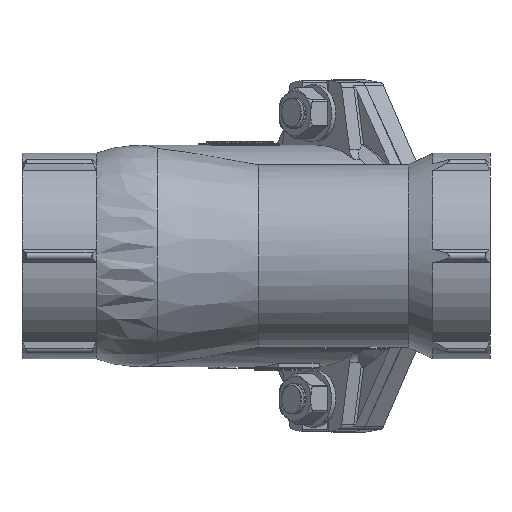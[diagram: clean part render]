
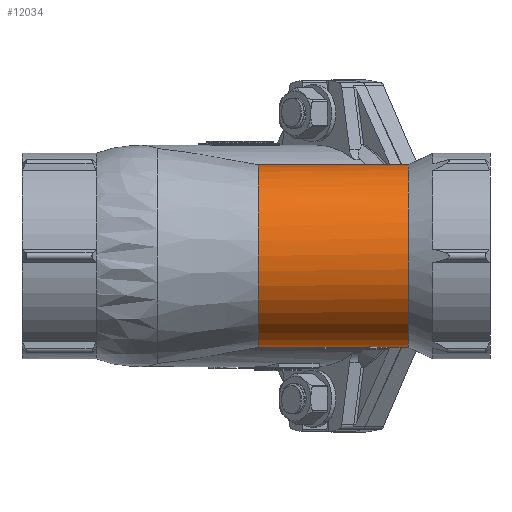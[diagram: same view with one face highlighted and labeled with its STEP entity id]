
A CAD part, front view. The second image highlights one B-rep face of the part: STEP entity #12034.
In plain terms, the highlighted cylindrical face has radius 48 mm (diameter 96 mm), a partial arc.
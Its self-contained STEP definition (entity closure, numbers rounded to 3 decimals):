
#72=ELLIPSE('',#12991,67.882,48.);
#73=ELLIPSE('',#12992,219.672,48.);
#74=ELLIPSE('',#12993,219.672,48.);
#75=ELLIPSE('',#12994,67.882,48.);
#76=ELLIPSE('',#12997,96.,48.);
#77=ELLIPSE('',#12998,96.,48.);
#666=FACE_BOUND('',#4058,.T.);
#810=LINE('',#20160,#1733);
#811=LINE('',#20169,#1734);
#1733=VECTOR('',#14666,1000.);
#1734=VECTOR('',#14675,1000.);
#2613=B_SPLINE_CURVE_WITH_KNOTS('',3,(#20121,#20122,#20123,#20124,#20125,
#20126,#20127,#20128,#20129,#20130,#20131,#20132,#20133,#20134),
 .UNSPECIFIED.,.F.,.F.,(4,2,2,2,2,2,4),(27.184,27.763,
28.948,30.134,31.951,33.768,35.33),
 .UNSPECIFIED.);
#2614=B_SPLINE_CURVE_WITH_KNOTS('',3,(#20142,#20143,#20144,#20145,#20146,
#20147,#20148,#20149,#20150,#20151,#20152,#20153,#20154,#20155),
 .UNSPECIFIED.,.F.,.F.,(4,2,2,2,2,2,4),(-20.014,-18.453,
-16.635,-14.818,-13.633,-12.447,
-11.869),.UNSPECIFIED.);
#2862=CYLINDRICAL_SURFACE('',#12990,48.);
#3326=FACE_OUTER_BOUND('',#4057,.T.);
#4057=EDGE_LOOP('',(#8848,#8849,#8850,#8851,#8852,#8853,#8854,#8855,#8856));
#4058=EDGE_LOOP('',(#8857,#8858,#8859,#8860,#8861,#8862,#8863));
#4821=CIRCLE('',#12910,48.);
#4865=CIRCLE('',#12968,48.);
#4866=CIRCLE('',#12970,48.);
#4882=CIRCLE('',#12995,48.);
#4883=CIRCLE('',#12996,48.);
#4884=CIRCLE('',#12999,48.);
#5279=VERTEX_POINT('',#18498);
#5280=VERTEX_POINT('',#18499);
#5351=VERTEX_POINT('',#19696);
#5352=VERTEX_POINT('',#19698);
#5357=VERTEX_POINT('',#19729);
#5390=VERTEX_POINT('',#20120);
#5391=VERTEX_POINT('',#20135);
#5392=VERTEX_POINT('',#20138);
#5393=VERTEX_POINT('',#20140);
#5394=VERTEX_POINT('',#20156);
#5395=VERTEX_POINT('',#20157);
#5396=VERTEX_POINT('',#20159);
#5397=VERTEX_POINT('',#20161);
#5398=VERTEX_POINT('',#20163);
#5399=VERTEX_POINT('',#20165);
#5400=VERTEX_POINT('',#20167);
#6569=EDGE_CURVE('',#5279,#5280,#4821,.T.);
#6653=EDGE_CURVE('',#5352,#5351,#4865,.T.);
#6659=EDGE_CURVE('',#5351,#5357,#4866,.T.);
#6700=EDGE_CURVE('',#5390,#5279,#2613,.T.);
#6701=EDGE_CURVE('',#5390,#5391,#72,.T.);
#6702=EDGE_CURVE('',#5352,#5391,#73,.T.);
#6703=EDGE_CURVE('',#5357,#5392,#74,.T.);
#6704=EDGE_CURVE('',#5392,#5393,#75,.T.);
#6705=EDGE_CURVE('',#5280,#5393,#2614,.T.);
#6706=EDGE_CURVE('',#5394,#5395,#4882,.T.);
#6707=EDGE_CURVE('',#5396,#5394,#810,.T.);
#6708=EDGE_CURVE('',#5397,#5396,#4883,.T.);
#6709=EDGE_CURVE('',#5398,#5397,#76,.T.);
#6710=EDGE_CURVE('',#5399,#5398,#77,.T.);
#6711=EDGE_CURVE('',#5400,#5399,#4884,.T.);
#6712=EDGE_CURVE('',#5395,#5400,#811,.T.);
#8848=ORIENTED_EDGE('',*,*,#6569,.F.);
#8849=ORIENTED_EDGE('',*,*,#6700,.F.);
#8850=ORIENTED_EDGE('',*,*,#6701,.T.);
#8851=ORIENTED_EDGE('',*,*,#6702,.F.);
#8852=ORIENTED_EDGE('',*,*,#6653,.T.);
#8853=ORIENTED_EDGE('',*,*,#6659,.T.);
#8854=ORIENTED_EDGE('',*,*,#6703,.T.);
#8855=ORIENTED_EDGE('',*,*,#6704,.T.);
#8856=ORIENTED_EDGE('',*,*,#6705,.F.);
#8857=ORIENTED_EDGE('',*,*,#6706,.F.);
#8858=ORIENTED_EDGE('',*,*,#6707,.F.);
#8859=ORIENTED_EDGE('',*,*,#6708,.F.);
#8860=ORIENTED_EDGE('',*,*,#6709,.F.);
#8861=ORIENTED_EDGE('',*,*,#6710,.F.);
#8862=ORIENTED_EDGE('',*,*,#6711,.F.);
#8863=ORIENTED_EDGE('',*,*,#6712,.F.);
#12034=ADVANCED_FACE('',(#3326,#666),#2862,.T.);
#12910=AXIS2_PLACEMENT_3D('',#18500,#14483,#14484);
#12968=AXIS2_PLACEMENT_3D('',#19699,#14610,#14611);
#12970=AXIS2_PLACEMENT_3D('',#19734,#14614,#14615);
#12990=AXIS2_PLACEMENT_3D('',#20119,#14654,#14655);
#12991=AXIS2_PLACEMENT_3D('',#20136,#14656,#14657);
#12992=AXIS2_PLACEMENT_3D('',#20137,#14658,#14659);
#12993=AXIS2_PLACEMENT_3D('',#20139,#14660,#14661);
#12994=AXIS2_PLACEMENT_3D('',#20141,#14662,#14663);
#12995=AXIS2_PLACEMENT_3D('',#20158,#14664,#14665);
#12996=AXIS2_PLACEMENT_3D('',#20162,#14667,#14668);
#12997=AXIS2_PLACEMENT_3D('',#20164,#14669,#14670);
#12998=AXIS2_PLACEMENT_3D('',#20166,#14671,#14672);
#12999=AXIS2_PLACEMENT_3D('',#20168,#14673,#14674);
#14483=DIRECTION('center_axis',(-1.,0.,0.));
#14484=DIRECTION('ref_axis',(0.,0.,1.));
#14610=DIRECTION('center_axis',(-1.,0.,0.));
#14611=DIRECTION('ref_axis',(0.,0.,1.));
#14614=DIRECTION('center_axis',(-1.,0.,0.));
#14615=DIRECTION('ref_axis',(0.,0.,1.));
#14654=DIRECTION('center_axis',(-1.,0.,0.));
#14655=DIRECTION('ref_axis',(0.,-1.,0.));
#14656=DIRECTION('center_axis',(-0.707,-0.707,0.));
#14657=DIRECTION('ref_axis',(0.707,-0.707,0.));
#14658=DIRECTION('center_axis',(-0.219,-0.219,0.951));
#14659=DIRECTION('ref_axis',(0.976,-0.049,0.213));
#14660=DIRECTION('center_axis',(0.219,0.219,0.951));
#14661=DIRECTION('ref_axis',(0.976,-0.049,-0.213));
#14662=DIRECTION('center_axis',(-0.707,-0.707,0.));
#14663=DIRECTION('ref_axis',(0.707,-0.707,0.));
#14664=DIRECTION('center_axis',(1.,0.,0.));
#14665=DIRECTION('ref_axis',(0.,0.,-1.));
#14666=DIRECTION('',(-1.,0.,0.));
#14667=DIRECTION('center_axis',(1.,0.,0.));
#14668=DIRECTION('ref_axis',(0.,0.,-1.));
#14669=DIRECTION('center_axis',(-0.5,0.866,0.));
#14670=DIRECTION('ref_axis',(0.866,0.5,0.));
#14671=DIRECTION('center_axis',(-0.5,-0.866,0.));
#14672=DIRECTION('ref_axis',(0.866,-0.5,0.));
#14673=DIRECTION('center_axis',(1.,0.,0.));
#14674=DIRECTION('ref_axis',(0.,0.,-1.));
#14675=DIRECTION('',(1.,0.,0.));
#18498=CARTESIAN_POINT('',(124.227,13.043,-46.194));
#18499=CARTESIAN_POINT('',(124.227,13.043,46.194));
#18500=CARTESIAN_POINT('Origin',(124.227,0.,0.));
#19696=CARTESIAN_POINT('',(203.133,0.,48.));
#19698=CARTESIAN_POINT('',(203.133,46.534,-11.771));
#19699=CARTESIAN_POINT('Origin',(203.133,0.,0.));
#19729=CARTESIAN_POINT('',(203.133,46.534,11.771));
#19734=CARTESIAN_POINT('Origin',(203.133,0.,0.));
#20119=CARTESIAN_POINT('Origin',(0.,0.,0.));
#20120=CARTESIAN_POINT('',(189.759,47.252,-8.443));
#20121=CARTESIAN_POINT('Ctrl Pts',(189.759,47.252,-8.443));
#20122=CARTESIAN_POINT('Ctrl Pts',(189.023,46.91,-10.352));
#20123=CARTESIAN_POINT('Ctrl Pts',(188.066,46.467,-12.147));
#20124=CARTESIAN_POINT('Ctrl Pts',(184.989,45.035,-16.947));
#20125=CARTESIAN_POINT('Ctrl Pts',(182.238,43.749,-19.981));
#20126=CARTESIAN_POINT('Ctrl Pts',(176.173,40.882,-25.336));
#20127=CARTESIAN_POINT('Ctrl Pts',(172.866,39.302,-27.664));
#20128=CARTESIAN_POINT('Ctrl Pts',(164.995,35.491,-32.533));
#20129=CARTESIAN_POINT('Ctrl Pts',(159.836,32.948,-35.083));
#20130=CARTESIAN_POINT('Ctrl Pts',(149.153,27.484,-39.509));
#20131=CARTESIAN_POINT('Ctrl Pts',(143.629,24.565,-41.383));
#20132=CARTESIAN_POINT('Ctrl Pts',(133.421,18.801,-44.265));
#20133=CARTESIAN_POINT('Ctrl Pts',(128.735,16.009,-45.356));
#20134=CARTESIAN_POINT('Ctrl Pts',(124.227,13.043,-46.194));
#20135=CARTESIAN_POINT('',(191.311,45.7,-14.679));
#20136=CARTESIAN_POINT('Origin',(237.011,0.,
0.));
#20137=CARTESIAN_POINT('Origin',(300.901,0.,
0.));
#20138=CARTESIAN_POINT('',(191.311,45.7,14.679));
#20139=CARTESIAN_POINT('Origin',(300.901,0.,0.));
#20140=CARTESIAN_POINT('',(189.759,47.252,8.443));
#20141=CARTESIAN_POINT('Origin',(237.011,0.,
0.));
#20142=CARTESIAN_POINT('Ctrl Pts',(124.227,13.043,46.194));
#20143=CARTESIAN_POINT('Ctrl Pts',(128.735,16.009,45.356));
#20144=CARTESIAN_POINT('Ctrl Pts',(133.421,18.801,44.265));
#20145=CARTESIAN_POINT('Ctrl Pts',(143.629,24.565,41.383));
#20146=CARTESIAN_POINT('Ctrl Pts',(149.153,27.484,39.509));
#20147=CARTESIAN_POINT('Ctrl Pts',(159.836,32.948,35.083));
#20148=CARTESIAN_POINT('Ctrl Pts',(164.995,35.491,32.533));
#20149=CARTESIAN_POINT('Ctrl Pts',(172.866,39.302,27.664));
#20150=CARTESIAN_POINT('Ctrl Pts',(176.173,40.882,25.336));
#20151=CARTESIAN_POINT('Ctrl Pts',(182.238,43.749,19.981));
#20152=CARTESIAN_POINT('Ctrl Pts',(184.989,45.035,16.947));
#20153=CARTESIAN_POINT('Ctrl Pts',(188.066,46.467,12.147));
#20154=CARTESIAN_POINT('Ctrl Pts',(189.023,46.91,10.352));
#20155=CARTESIAN_POINT('Ctrl Pts',(189.759,47.252,8.443));
#20156=CARTESIAN_POINT('',(153.379,-3.,-47.906));
#20157=CARTESIAN_POINT('',(153.379,3.,-47.906));
#20158=CARTESIAN_POINT('Origin',(153.379,0.,0.));
#20159=CARTESIAN_POINT('',(182.79,-3.,-47.906));
#20160=CARTESIAN_POINT('',(0.,-3.,-47.906));
#20161=CARTESIAN_POINT('',(182.79,-6.,-47.624));
#20162=CARTESIAN_POINT('Origin',(182.79,0.,0.));
#20163=CARTESIAN_POINT('',(193.182,0.,-48.));
#20164=CARTESIAN_POINT('Origin',(193.182,0.,
0.));
#20165=CARTESIAN_POINT('',(182.79,6.,-47.624));
#20166=CARTESIAN_POINT('Origin',(193.182,0.,0.));
#20167=CARTESIAN_POINT('',(182.79,3.,-47.906));
#20168=CARTESIAN_POINT('Origin',(182.79,0.,0.));
#20169=CARTESIAN_POINT('',(0.,3.,-47.906));
